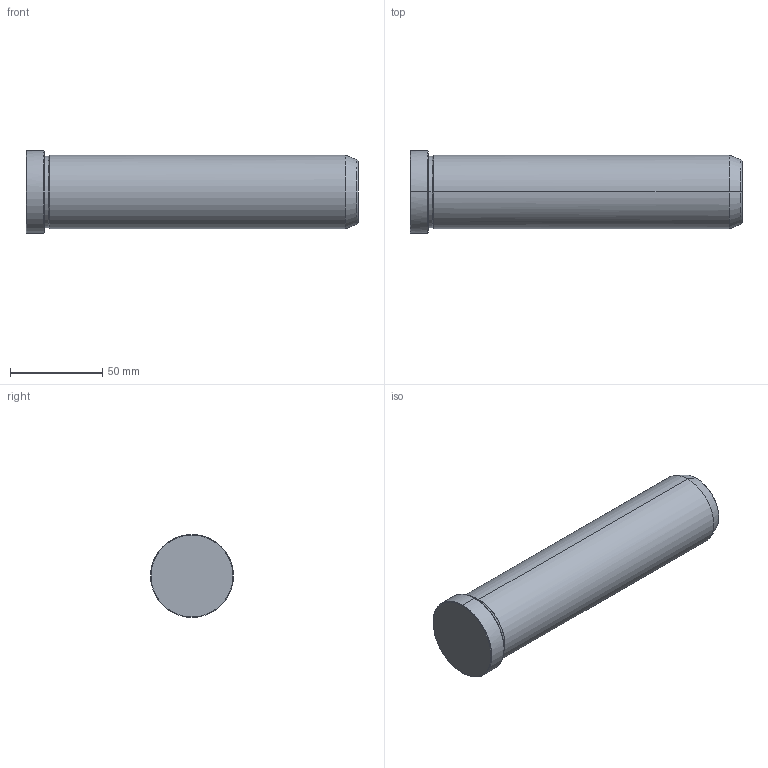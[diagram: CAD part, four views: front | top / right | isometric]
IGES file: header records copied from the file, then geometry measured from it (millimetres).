
Start section: START RECORD GO HERE.
Global section: file name: 549-40X180.igs; native system: DASSAULT SYSTEMES CATIA V5 R20 - www.3ds.com; preprocessor: CATIA Version 5 Release 20 ; author: Utente; organization: NB04-ASUS; date: 20211218.091519; units: millimetre
Bounding box: 180 x 45 x 45 mm (x, y, z)
Surface area: 25632.5 mm2 (no closed solid volume)
Topology: 0 solids, 0 shells, 19 faces, 112 edges, 112 vertices
Faces by surface type: revolution 16, plane 3
